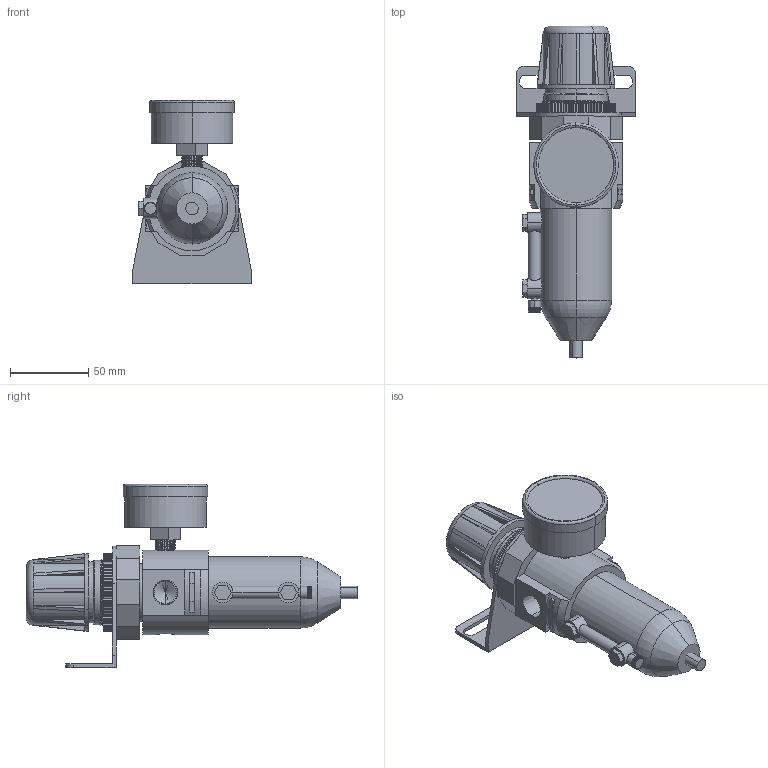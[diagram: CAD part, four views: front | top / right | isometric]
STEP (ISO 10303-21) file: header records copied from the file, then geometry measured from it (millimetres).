
FILE_DESCRIPTION (( 'STEP AP203' ), '1' );
FILE_NAME ('B011W-03#YGB#.STEP', '2016-02-16T07:06:16', ( '' ), ( '' ), 'SwSTEP 2.0', 'SolidWorks 2014', '' );
FILE_SCHEMA (( 'CONFIG_CONTROL_DESIGN' ));
Length unit declared in the file: millimetre
Products named in the file (16): 50-P-AD=1-4PT-1; KWSAR10Y57; 50-P-AD=1-4PT.SLDPRT; 50-P-AD=1-4PT-2; B011W-03#YGB#; R010-3; KWR10X51; D011W-4; L606-W-06-5; R010-4; D011W-6; D011W-5; KWSAR10Y57-1
Assembly tree (16 placements, depth 4):
  B011W-03#YGB#
    (unnamed)
    50-P-AD=1-4PT.SLDPRT
      50-P-AD=1-4PT-1
      50-P-AD=1-4PT-2
    L606-W-06-5
    (unnamed)
      R010-3
      R010-4
      KWSAR10Y57
        KWSAR10Y57-1
        KWR10X51
    (unnamed)
      D011W-5  x2
      D011W-4
      D011W-6
Bounding box: 76 x 212 x 117 mm (x, y, z)
Volume: 422598.7 mm3; surface area: 77220.7 mm2
Topology: 12 solids, 12 shells, 727 faces, 1993 edges, 1301 vertices
Faces by surface type: plane 504, cylinder 187, cone 22, torus 10, bspline 4
Entity records: 27117 total; most frequent: CARTESIAN_POINT 7116, ORIENTED_EDGE 3922, DIRECTION 3776, EDGE_CURVE 1961, LINE 1356, VECTOR 1356, VERTEX_POINT 1285, AXIS2_PLACEMENT_3D 1210
